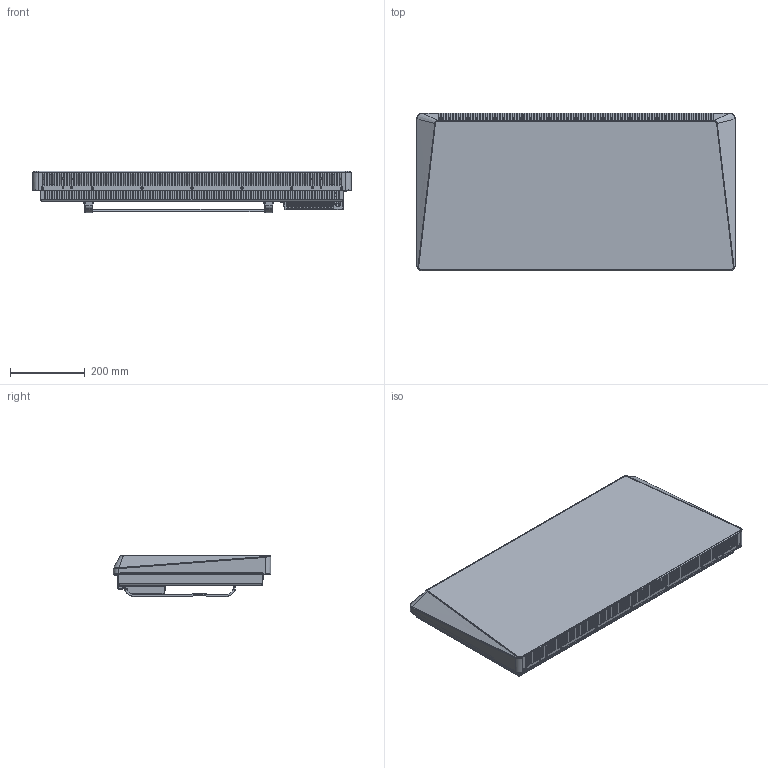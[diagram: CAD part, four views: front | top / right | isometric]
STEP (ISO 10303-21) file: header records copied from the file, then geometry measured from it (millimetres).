
FILE_DESCRIPTION(('FreeCAD Model'),'2;1');
FILE_NAME('Open CASCADE Shape Model','2026-06-11T10:35:30',(''),(''), 'Open CASCADE STEP processor 7.8','FreeCAD','Unknown');
FILE_SCHEMA(('AUTOMOTIVE_DESIGN { 1 0 10303 214 1 1 1 1 }'));
Length unit declared in the file: millimetre
Products named in the file (11): Unnamed; HCA10-SUPPORTO-MURALE_1500W_ASM; HCA10-M006_1500W; HCA10-M005-GUAQIANGZHIJIA_1; STE_POSTERIORE-1500W_ASM; STE_POSTERIORE_1500W; STE_GR-SCATOLA-COMANDI_ASM; STE_CORPO-SCATOLA-COMANDI; STE_SUPPORTO-PCB-COMMAND; STE_TASTIERA-ADESIVA; STE_FRONTALE_1500W
Assembly tree (11 placements, depth 3):
  Unnamed
    HCA10-SUPPORTO-MURALE_1500W_ASM
      HCA10-M006_1500W
      HCA10-M005-GUAQIANGZHIJIA_1  x2
    STE_POSTERIORE-1500W_ASM
      STE_POSTERIORE_1500W
    STE_GR-SCATOLA-COMANDI_ASM
      STE_CORPO-SCATOLA-COMANDI
      STE_SUPPORTO-PCB-COMMAND
      STE_TASTIERA-ADESIVA
    STE_FRONTALE_1500W
Bounding box: 850 x 420 x 110.5 mm (x, y, z)
Volume: 749843.5 mm3; surface area: 1958850.1 mm2
Topology: 8 solids, 8 shells, 4961 faces, 13845 edges, 8561 vertices
Faces by surface type: plane 3012, cylinder 1216, bspline 306, cone 201, torus 170, sphere 56
Entity records: 169503 total; most frequent: CARTESIAN_POINT 47465, ORIENTED_EDGE 26598, DIRECTION 23428, EDGE_CURVE 13299, LINE 9806, VECTOR 9806, VERTEX_POINT 8247, AXIS2_PLACEMENT_3D 6811
